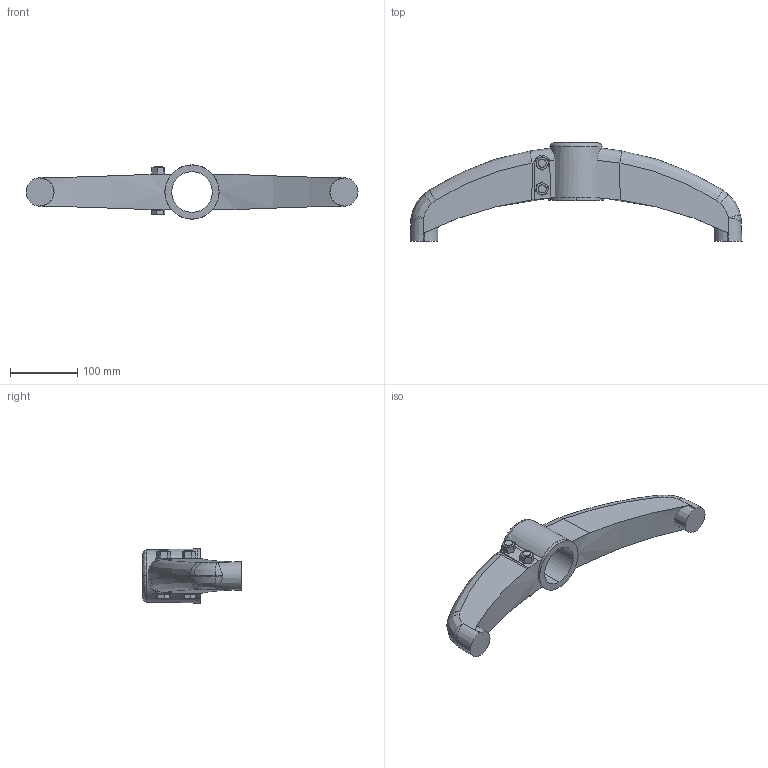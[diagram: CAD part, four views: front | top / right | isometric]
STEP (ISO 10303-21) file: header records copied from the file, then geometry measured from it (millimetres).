
FILE_DESCRIPTION (( 'STEP AP214' ), '1' );
FILE_NAME ('FABER - 331 2.STEP', '2017-04-05T12:16:35', ( '' ), ( '' ), 'SwSTEP 2.0', 'SolidWorks 2016', '' );
FILE_SCHEMA (( 'AUTOMOTIVE_DESIGN' ));
Length unit declared in the file: millimetre
Products named in the file (1): FABER - 331 2
Bounding box: 494.9 x 146.45 x 80.8 mm (x, y, z)
Volume: 1408650.7 mm3; surface area: 142744.6 mm2
Topology: 5 solids, 5 shells, 168 faces, 398 edges, 244 vertices
Faces by surface type: plane 60, cone 48, bspline 32, cylinder 28
Entity records: 9967 total; most frequent: CARTESIAN_POINT 4614, ORIENTED_EDGE 796, DIRECTION 590, EDGE_CURVE 398, VERTEX_POINT 244, AXIS2_PLACEMENT_3D 239, EDGE_LOOP 182, UNCERTAINTY_MEASURE_WITH_UNIT 175
